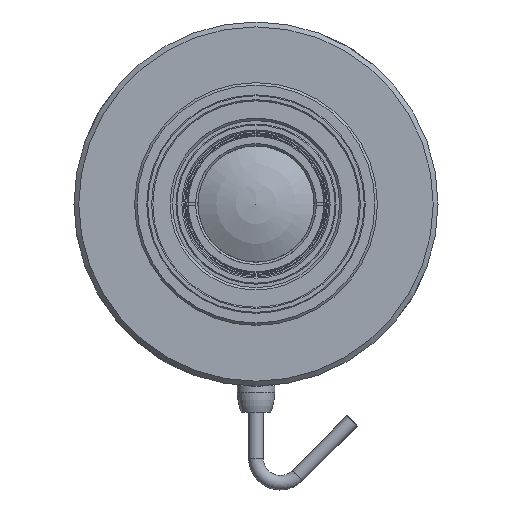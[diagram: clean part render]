
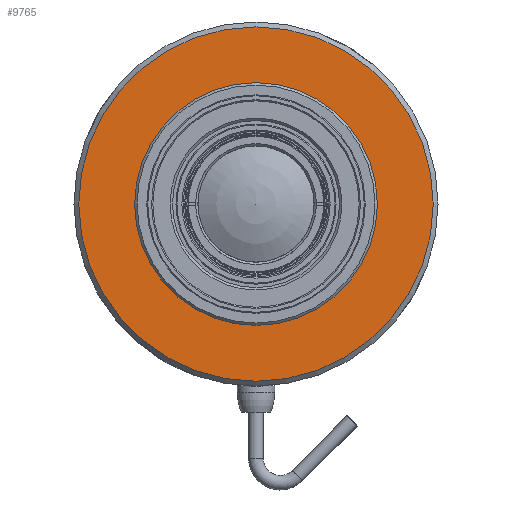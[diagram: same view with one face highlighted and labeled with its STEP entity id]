
A CAD part, front view. The second image highlights one B-rep face of the part: STEP entity #9765.
In plain terms, the highlighted planar face has unit normal (0, -1, 0).
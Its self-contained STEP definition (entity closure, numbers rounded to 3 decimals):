
#1608=PLANE('',#10310);
#2712=ORIENTED_EDGE('',*,*,#4018,.T.);
#2713=ORIENTED_EDGE('',*,*,#4005,.F.);
#4005=EDGE_CURVE('',#4766,#4766,#5157,.T.);
#4018=EDGE_CURVE('',#4779,#4779,#5170,.T.);
#4766=VERTEX_POINT('',#13593);
#4779=VERTEX_POINT('',#13631);
#5157=CIRCLE('',#10266,36.5);
#5170=CIRCLE('',#10291,25.);
#5584=EDGE_LOOP('',(#2712));
#5585=EDGE_LOOP('',(#2713));
#6190=FACE_BOUND('',#5584,.T.);
#6191=FACE_BOUND('',#5585,.T.);
#9765=ADVANCED_FACE('',(#6190,#6191),#1608,.F.);
#10266=AXIS2_PLACEMENT_3D('',#13592,#11554,#11555);
#10291=AXIS2_PLACEMENT_3D('',#13630,#11604,#11605);
#10310=AXIS2_PLACEMENT_3D('',#13659,#11642,#11643);
#11554=DIRECTION('',(0.,1.,0.));
#11555=DIRECTION('',(0.,0.,1.));
#11604=DIRECTION('',(0.,1.,0.));
#11605=DIRECTION('',(0.,0.,1.));
#11642=DIRECTION('',(0.,1.,0.));
#11643=DIRECTION('',(0.,0.,1.));
#13592=CARTESIAN_POINT('',(0.,-99.583,0.));
#13593=CARTESIAN_POINT('',(0.,-99.583,36.5));
#13630=CARTESIAN_POINT('',(0.,-99.583,0.));
#13631=CARTESIAN_POINT('',(0.,-99.583,25.));
#13659=CARTESIAN_POINT('',(0.,-99.583,27.5));
